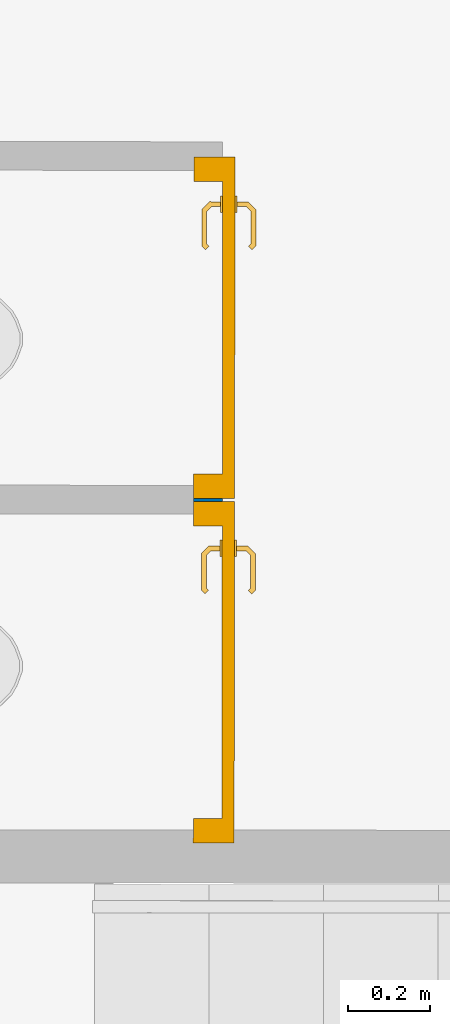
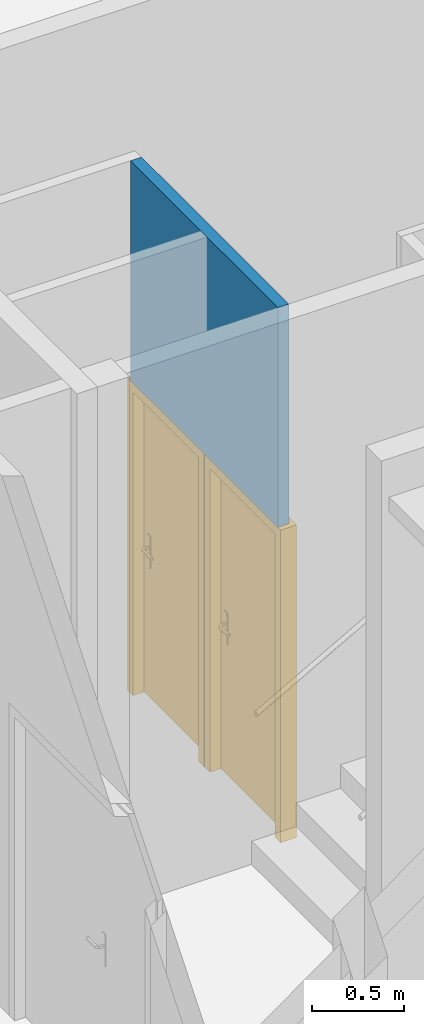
# One storey, part 52 of 101: 2 doors, 1 wall, 2 openings.
"""IFC2X3 building model written with IfcOpenShell, lengths in metres."""

from ifc_helpers import new_model, entity, si_unit, converted_unit, derived_unit, direction, frame, frame_2d, origin, place, context, subcontext, project, spatial, rectangle, extrude, faceted_brep, source, transform, mapped, material, material_list, layer, layer_set, layer_usage, type_object, type_shapes, element, fill, save


model = new_model("IFC2X3")

# Units and contexts
model_context = context("Model", 3, precision=1e-05, world=origin(), true_north=direction((6.123233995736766e-17, 1.0)))
body_context = subcontext(model_context, "Body", "Model", "MODEL_VIEW")
ifc_project = project(units=[si_unit("LENGTHUNIT", "METRE"), si_unit("AREAUNIT", "SQUARE_METRE"), converted_unit("PLANEANGLEUNIT", "DEGREE", entity("IfcPlaneAngleMeasure", 0.017453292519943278), si_unit("PLANEANGLEUNIT", "RADIAN"), dimensions=[0, 0, 0, 0, 0, 0, 0]), derived_unit("THERMALTRANSMITTANCEUNIT", [(si_unit("MASSUNIT", "GRAM", prefix="KILO"), 1), (si_unit("THERMODYNAMICTEMPERATUREUNIT", "KELVIN"), -1), (si_unit("TIMEUNIT", "SECOND"), -3)])], contexts=[model_context])

# Site, building, storey
site_placement = place(None, frame((1253.6752467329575, 2072.143113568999, 91.49999999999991), z_axis=(0.0, 0.0, 1.0), x_axis=(0.7237211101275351, 0.6900925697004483, 0.0)))
site = spatial("IfcSite", under=ifc_project, at=site_placement, Name="Surface", CompositionType="ELEMENT")
building_placement = place(site_placement, origin())
building = spatial("IfcBuilding", under=site, at=building_placement, CompositionType="ELEMENT")
storey_placement = place(building_placement, origin())
storey = spatial("IfcBuildingStorey", under=building, at=storey_placement, Name="0- Rdc", CompositionType="ELEMENT", Elevation=-5.764692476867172e-13)

# Wall, openings, doors
ifc_material_1 = material(Name="OMD_Béton blanc")
ifc_layer = layer(ifc_material_1, 0.07)
ifc_layer_set = layer_set([ifc_layer], Name="Mur de base:MUR 7")
ifc_layer_usage = layer_usage(ifc_layer_set, "AXIS2", "NEGATIVE", 0.035)
wall_type = type_object("IfcWallType", Name="Mur de base:MUR 7", PredefinedType="STANDARD", material=ifc_layer_set)
wall_placement = place(storey_placement, frame((160.17173099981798, 7.616563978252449, 0.0), z_axis=(0.0, 0.0, 1.0), x_axis=(-0.6909838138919, -0.7228702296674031, 0.0)))
wall = element("IfcWallStandardCase", 1, at=wall_placement, inside=storey, type_object=wall_type, material=ifc_layer_usage, Name="Mur de base:MUR 7", ObjectType="Mur de base:MUR 7", context=body_context, shape_type="SweptSolid", body=[
    extrude(rectangle(XDim=1.6125000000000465, YDim=0.06999999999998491, at=frame_2d((0.8062500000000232, -2.2551405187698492e-15), x_axis=(-1.0, 0.0))), origin(), (0.0, 0.0, 1.0), 3.5499999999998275),
])
opening_1_placement = place(wall_placement, frame((-0.03249999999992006, -0.035000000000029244, 0.0)))
opening_1 = element("IfcOpeningElement", 2, at=opening_1_placement, cuts=wall, Name="OMD_Porte 1V tunnel:70X204:1", ObjectType="Opening", context=body_context, shape_type="SweptSolid", body=[
    extrude(rectangle(XDim=2.0850000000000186, YDim=0.8349999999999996, at=frame_2d((1.0425000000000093, 0.4174999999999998), x_axis=(1.0, 0.0))), frame((0.0, 0.0, 0.0), z_axis=(0.0, 1.0, 0.0), x_axis=(0.0, 0.0, 1.0)), (0.0, 0.0, 1.0), 0.07),
])
opening_2_placement = place(wall_placement, frame((0.8087500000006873, -0.03500000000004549, 0.0)))
opening_2 = element("IfcOpeningElement", 3, at=opening_2_placement, cuts=wall, Name="OMD_Porte 1V tunnel:70X204:1", ObjectType="Opening", context=body_context, shape_type="SweptSolid", body=[
    extrude(rectangle(XDim=2.0850000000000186, YDim=0.8349999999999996, at=frame_2d((1.0425000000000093, 0.4174999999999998), x_axis=(1.0, 0.0))), frame((0.0, 0.0, 0.0), z_axis=(0.0, 1.0, 0.0), x_axis=(0.0, 0.0, 1.0)), (0.0, 0.0, 1.0), 0.07),
])
ifc_material_2 = material(Name="Porte - Poignée")
ifc_material_3 = material(Name="OMD_Peinture mur")
ifc_material_4 = material(Name="OMD_BLEU T1 23 25-SIKKKENS")
ifc_material_list = material_list([ifc_material_2, ifc_material_3, ifc_material_4])
door_style = type_object("IfcDoorStyle", Name="OMD_Porte 1V tunnel:70X204", ConstructionType="NOTDEFINED", OperationType="NOTDEFINED", ParameterTakesPrecedence=False, Sizeable=False, material=ifc_material_list)
shared_shape = source(origin(), body_context, "Body", "Brep", [
    faceted_brep([(0.7220252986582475, 0.0050000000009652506, 1.0077804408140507), (0.7179747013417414, 0.0050000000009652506, 1.007780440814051), (0.713999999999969, 0.0050000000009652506, 1.00699999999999), (0.7139999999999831, 0.0050000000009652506, 0.9930000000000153), (0.7179747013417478, 0.0050000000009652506, 0.9922195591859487), (0.722025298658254, 0.0050000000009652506, 0.9922195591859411), (0.7260000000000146, 0.0050000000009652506, 0.9929999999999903), (0.7260000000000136, 0.0050000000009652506, 1.006999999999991), (0.713999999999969, 0.027485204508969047, 1.00699999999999), (0.713999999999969, 0.0274852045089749, 0.9930000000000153), (0.717974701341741, 0.02913157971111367, 1.007780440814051), (0.7220252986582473, 0.03080939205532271, 1.0077804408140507), (0.7058389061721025, 0.046995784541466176, 1.0077804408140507), (0.7041610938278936, 0.04294518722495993, 1.007780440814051), (0.620793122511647, 0.0429451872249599, 1.0077804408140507), (0.6191153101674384, 0.04699578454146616, 1.0077804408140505), (0.6114510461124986, 0.039331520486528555, 1.0077804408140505), (0.6143152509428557, 0.03646731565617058, 1.0077804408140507), (0.7260000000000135, 0.03245576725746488, 1.006999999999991), (0.7260000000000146, 0.03245576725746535, 0.9929999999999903), (0.722025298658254, 0.03080939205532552, 0.9922195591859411), (0.7179747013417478, 0.029131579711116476, 0.9922195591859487), (0.7041610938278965, 0.04294518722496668, 0.9922195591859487), (0.7058389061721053, 0.046995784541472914, 0.9922195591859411), (0.6191153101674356, 0.0469957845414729, 0.9922195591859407), (0.6207931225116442, 0.04294518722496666, 0.9922195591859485), (0.6143152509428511, 0.0364673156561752, 0.9922195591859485), (0.6114510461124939, 0.03933152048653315, 0.9922195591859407), (0.7025147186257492, 0.03897048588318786, 1.00699999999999), (0.7025147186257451, 0.038970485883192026, 0.9930000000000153), (0.7074852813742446, 0.05097048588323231, 1.006999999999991), (0.7074852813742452, 0.050970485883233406, 0.9929999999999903), (0.6624771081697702, 0.03897048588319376, 1.0069999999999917), (0.6224394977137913, 0.038970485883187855, 1.0069999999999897), (0.6224394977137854, 0.03897048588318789, 0.9930000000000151), (0.6624771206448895, 0.03897048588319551, 0.9930000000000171), (0.6624771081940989, 0.045124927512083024, 1.0078781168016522), (0.6573994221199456, 0.05097048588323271, 1.0069999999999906), (0.6174689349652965, 0.05097048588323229, 1.0069999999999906), (0.6675547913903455, 0.0509704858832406, 0.9929999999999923), (0.6174689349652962, 0.05097048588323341, 0.99299999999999), (0.6624771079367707, 0.045124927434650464, 0.9921218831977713), (0.6086405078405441, 0.04214205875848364, 1.0069999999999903), (0.6086405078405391, 0.04214205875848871, 0.9929999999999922), (0.6171257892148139, 0.033656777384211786, 0.9930000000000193), (0.6171257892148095, 0.033656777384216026, 1.0069999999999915)], [[[0, 1, 2, 3, 4, 5, 6, 7]], [[8, 9, 3, 2]], [[1, 10, 8, 2]], [[1, 0, 11, 12, 13, 10]], [[14, 15, 16, 17]], [[7, 18, 11, 0]], [[18, 7, 6, 19]], [[6, 5, 20, 19]], [[5, 4, 21, 22, 23, 20]], [[24, 25, 26, 27]], [[4, 3, 9, 21]], [[28, 29, 9, 8]], [[8, 10, 13, 28]], [[18, 30, 12, 11]], [[31, 30, 18, 19]], [[19, 20, 23, 31]], [[21, 9, 29, 22]], [[29, 28, 32, 33, 34, 35]], [[36, 32, 13]], [[37, 38, 15]], [[37, 12, 30]], [[36, 12, 37]], [[14, 32, 36]], [[36, 15, 14]], [[28, 13, 32]], [[32, 14, 33]], [[12, 36, 13]], [[15, 36, 37]], [[30, 31, 39, 40, 38, 37]], [[23, 41, 39]], [[24, 39, 41]], [[39, 31, 23]], [[39, 24, 40]], [[22, 35, 41]], [[41, 23, 22]], [[41, 35, 25]], [[35, 22, 29]], [[34, 25, 35]], [[24, 41, 25]], [[17, 16, 42, 43, 27, 26, 44, 45]], [[45, 44, 34, 33]], [[33, 14, 17, 45]], [[15, 38, 42, 16]], [[43, 42, 38, 40]], [[24, 27, 43, 40]], [[34, 44, 26, 25]]]),
    faceted_brep([(0.7179747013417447, -0.034999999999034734, 1.007780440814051), (0.722025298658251, -0.034999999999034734, 1.0077804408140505), (0.7260000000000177, -0.034999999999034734, 1.0069999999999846), (0.7260000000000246, -0.034999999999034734, 0.9929999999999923), (0.7220252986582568, -0.034999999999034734, 0.992219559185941), (0.7179747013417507, -0.034999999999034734, 0.9922195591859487), (0.7139999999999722, -0.034999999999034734, 0.9930000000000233), (0.7139999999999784, -0.034999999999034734, 1.006999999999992), (0.7220252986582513, -0.061004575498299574, 1.0077804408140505), (0.7260000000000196, -0.06265095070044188, 1.0069999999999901), (0.717974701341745, -0.059326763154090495, 1.007780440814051), (0.7042986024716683, -0.07300286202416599, 1.007780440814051), (0.7059764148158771, -0.0770534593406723, 1.0077804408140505), (0.6191424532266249, -0.0770534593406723, 1.0077804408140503), (0.6208202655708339, -0.07300286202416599, 1.0077804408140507), (0.6143423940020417, -0.06652499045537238, 1.0077804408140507), (0.611478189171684, -0.06938919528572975, 1.0077804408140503), (0.7139999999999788, -0.057680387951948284, 1.006999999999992), (0.7139999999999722, -0.05768038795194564, 0.9930000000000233), (0.7179747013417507, -0.059326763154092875, 0.9922195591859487), (0.7220252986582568, -0.061004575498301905, 0.992219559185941), (0.7059764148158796, -0.07705345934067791, 0.992219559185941), (0.7042986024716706, -0.07300286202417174, 0.9922195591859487), (0.6208202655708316, -0.07300286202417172, 0.9922195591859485), (0.6191424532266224, -0.07705345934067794, 0.9922195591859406), (0.6114781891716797, -0.0693891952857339, 0.9922195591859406), (0.6143423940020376, -0.0665249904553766, 0.9922195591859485), (0.7260000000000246, -0.06265095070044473, 0.9929999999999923), (0.7076227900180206, -0.08102816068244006, 1.0069999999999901), (0.7026522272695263, -0.06902816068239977, 1.006999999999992), (0.7026522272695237, -0.06902816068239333, 0.9930000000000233), (0.7076227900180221, -0.08102816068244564, 0.9929999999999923), (0.6625594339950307, -0.07518280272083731, 1.0078781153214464), (0.6676923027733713, -0.0810281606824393, 1.0069999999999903), (0.6174960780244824, -0.08102816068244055, 1.00699999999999), (0.66255943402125, -0.06902816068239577, 1.0069999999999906), (0.6224666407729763, -0.06902816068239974, 1.0069999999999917), (0.6625594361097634, -0.06902816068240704, 0.9930000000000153), (0.622466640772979, -0.06902816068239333, 0.9930000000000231), (0.6625594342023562, -0.0751828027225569, 0.9921218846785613), (0.657426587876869, -0.08102816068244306, 0.9929999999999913), (0.6174960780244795, -0.08102816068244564, 0.9929999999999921), (0.6171529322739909, -0.06371445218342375, 0.9930000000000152), (0.6086676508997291, -0.07219973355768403, 0.9929999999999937), (0.6086676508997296, -0.07219973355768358, 1.0069999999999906), (0.6171529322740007, -0.06371445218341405, 1.0069999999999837)], [[[0, 1, 2, 3, 4, 5, 6, 7]], [[2, 1, 8, 9]], [[1, 0, 10, 11, 12, 8]], [[13, 14, 15, 16]], [[0, 7, 17, 10]], [[18, 17, 7, 6]], [[5, 19, 18, 6]], [[5, 4, 20, 21, 22, 19]], [[23, 24, 25, 26]], [[3, 27, 20, 4]], [[9, 27, 3, 2]], [[9, 8, 12, 28]], [[10, 17, 29, 11]], [[30, 29, 17, 18]], [[18, 19, 22, 30]], [[20, 27, 31, 21]], [[28, 31, 27, 9]], [[12, 32, 33]], [[13, 33, 32]], [[33, 28, 12]], [[33, 13, 34]], [[11, 35, 32]], [[32, 12, 11]], [[32, 35, 14]], [[35, 11, 29]], [[36, 14, 35]], [[13, 32, 14]], [[29, 30, 37, 38, 36, 35]], [[39, 37, 22]], [[40, 41, 24]], [[40, 21, 31]], [[39, 21, 40]], [[23, 37, 39]], [[39, 24, 23]], [[30, 22, 37]], [[37, 23, 38]], [[21, 39, 22]], [[24, 39, 40]], [[31, 28, 33, 34, 41, 40]], [[42, 26, 25, 43, 44, 16, 15, 45]], [[13, 16, 44, 34]], [[36, 45, 15, 14]], [[42, 45, 36, 38]], [[38, 23, 26, 42]], [[24, 41, 43, 25]], [[44, 43, 41, 34]]]),
    faceted_brep([(0.7199999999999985, 0.0, 0.8646410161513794), (0.7303527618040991, 0.0, 0.866003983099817), (0.739999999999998, 0.0, 0.8700000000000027), (0.739999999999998, 0.0, 1.0800000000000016), (0.730352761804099, 0.0, 1.0839960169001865), (0.7199999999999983, 0.0, 1.0853589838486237), (0.7096472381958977, 0.0, 1.0839960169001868), (0.6999999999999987, 0.0, 1.0800000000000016), (0.6999999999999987, 0.0, 0.8700000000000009), (0.7096472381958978, 0.0, 0.8660039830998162), (0.7199999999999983, 0.005000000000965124, 1.0853589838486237), (0.730352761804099, 0.005000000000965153, 1.0839960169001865), (0.739999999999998, 0.005000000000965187, 1.0800000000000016), (0.7399999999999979, 0.005000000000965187, 0.8700000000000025), (0.730352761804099, 0.005000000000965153, 0.866003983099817), (0.7199999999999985, 0.005000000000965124, 0.8646410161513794), (0.7096472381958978, 0.005000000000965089, 0.8660039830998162), (0.6999999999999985, 0.005000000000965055, 0.8700000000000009), (0.6999999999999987, 0.005000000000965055, 1.0800000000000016), (0.7096472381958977, 0.005000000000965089, 1.0839960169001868)], [[[0, 1, 2, 3, 4, 5, 6, 7, 8, 9]], [[10, 11, 12, 13, 14, 15, 16, 17, 18, 19]], [[6, 19, 18, 7]], [[5, 10, 19, 6]], [[4, 11, 10, 5]], [[4, 3, 12, 11]], [[12, 3, 2, 13]], [[1, 14, 13, 2]], [[0, 15, 14, 1]], [[9, 16, 15, 0]], [[9, 8, 17, 16]], [[17, 8, 7, 18]]]),
    faceted_brep([(0.7199999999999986, -0.03499999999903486, 0.8646410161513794), (0.7303527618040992, -0.034999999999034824, 0.8660039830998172), (0.7399999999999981, -0.034999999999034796, 0.8700000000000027), (0.739999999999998, -0.034999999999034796, 1.0800000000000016), (0.7303527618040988, -0.034999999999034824, 1.0839960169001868), (0.7199999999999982, -0.03499999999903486, 1.0853589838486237), (0.7096472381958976, -0.03499999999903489, 1.0839960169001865), (0.6999999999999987, -0.03499999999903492, 1.0800000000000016), (0.6999999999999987, -0.03499999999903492, 0.8700000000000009), (0.7096472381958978, -0.03499999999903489, 0.8660039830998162), (0.739999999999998, -0.029999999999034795, 1.0800000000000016), (0.7399999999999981, -0.029999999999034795, 0.8700000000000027), (0.7303527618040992, -0.02999999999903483, 0.8660039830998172), (0.7199999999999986, -0.029999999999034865, 0.8646410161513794), (0.7096472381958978, -0.0299999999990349, 0.8660039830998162), (0.6999999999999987, -0.029999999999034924, 0.8700000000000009), (0.6999999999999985, -0.029999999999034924, 1.0800000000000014), (0.7096472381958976, -0.0299999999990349, 1.0839960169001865), (0.7199999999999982, -0.029999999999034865, 1.0853589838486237), (0.7303527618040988, -0.02999999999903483, 1.0839960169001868)], [[[0, 1, 2, 3, 4, 5, 6, 7, 8, 9]], [[10, 11, 12, 13, 14, 15, 16, 17, 18, 19]], [[1, 12, 11, 2]], [[0, 13, 12, 1]], [[9, 14, 13, 0]], [[9, 8, 15, 14]], [[15, 8, 7, 16]], [[6, 17, 16, 7]], [[5, 18, 17, 6]], [[4, 19, 18, 5]], [[4, 3, 10, 19]], [[10, 3, 2, 11]]]),
    faceted_brep([(0.7899999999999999, 0.0, 0.0), (0.7899999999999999, -0.029999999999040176, 0.0), (0.0450000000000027, -0.029999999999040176, 0.0), (0.0450000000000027, 0.0, 0.0), (0.7899999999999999, 0.0, 2.04), (0.7899999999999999, -0.029999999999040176, 2.04), (0.0450000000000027, -0.029999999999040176, 2.04), (0.0450000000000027, 0.0, 2.04)], [[[0, 1, 2, 3]], [[4, 5, 1, 0]], [[5, 6, 2, 1]], [[6, 7, 3, 2]], [[7, 4, 0, 3]], [[4, 7, 6, 5]]]),
    faceted_brep([(0.8350000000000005, -0.02999999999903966, 0.0), (0.7900000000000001, -0.029999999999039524, 0.0), (0.7900000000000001, 0.0, 0.0), (0.7750000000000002, 0.0, 0.0), (0.7750000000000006, 0.07000000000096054, 0.0), (0.8350000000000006, 0.07000000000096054, 0.0), (0.8350000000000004, -0.02999999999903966, 2.0850000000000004), (0.0, -0.029999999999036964, 2.0850000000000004), (0.0, -0.029999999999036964, 0.0), (0.04500000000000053, -0.029999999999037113, 0.0), (0.04500000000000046, -0.029999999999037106, 2.04), (0.7900000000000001, -0.029999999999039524, 2.0400000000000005), (0.7900000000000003, 0.0, 2.0400000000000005), (0.04500000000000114, 0.0, 2.0399999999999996), (0.04500000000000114, 0.0, 0.0), (0.060000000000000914, 0.0, 0.0), (0.06000000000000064, 0.0, 2.025), (0.7750000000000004, 0.0, 2.0250000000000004), (0.7750000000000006, 0.07000000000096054, 2.0250000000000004), (0.06000000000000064, 0.07000000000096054, 2.0250000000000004), (0.06000000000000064, 0.07000000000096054, 0.0), (0.0, 0.07000000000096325, 0.0), (0.0, 0.07000000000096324, 2.0850000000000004), (0.8350000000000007, 0.07000000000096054, 2.0850000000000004)], [[[0, 1, 2, 3, 4, 5]], [[1, 0, 6, 7, 8, 9, 10, 11]], [[2, 1, 11, 12]], [[3, 2, 12, 13, 14, 15, 16, 17]], [[4, 3, 17, 18]], [[5, 4, 18, 19, 20, 21, 22, 23]], [[0, 5, 23, 6]], [[7, 22, 21, 8]], [[8, 21, 20, 15, 14, 9]], [[13, 10, 9, 14]], [[19, 16, 15, 20]], [[12, 11, 10, 13]], [[18, 17, 16, 19]], [[6, 23, 22, 7]]]),
])
type_shapes(door_style, [shared_shape])
door_1_placement = place(opening_1_placement, frame((0.8349999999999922, 0.0700000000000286, 0.0), z_axis=(0.0, 0.0, 1.0), x_axis=(-1.0, 0.0, 0.0)))
door_1 = element("IfcDoor", 4, at=door_1_placement, inside=storey, type_object=door_style, material=ifc_material_list, Name="OMD_Porte 1V tunnel:70X204", ObjectType="OMD_Porte 1V tunnel:70X204", OverallHeight=2.0850000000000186, OverallWidth=0.8350000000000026, context=body_context, shape_type="MappedRepresentation", body=[
    mapped(shared_shape, transform((0.0, 0.0, 0.0), scale=1.0)),
])
fill(opening_1, door_1)
door_2_placement = place(opening_2_placement, frame((0.8349999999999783, 0.07000000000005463, 0.0), z_axis=(0.0, 0.0, 1.0), x_axis=(-1.0, 0.0, 0.0)))
door_2 = element("IfcDoor", 5, at=door_2_placement, inside=storey, type_object=door_style, material=ifc_material_list, Name="OMD_Porte 1V tunnel:70X204", ObjectType="OMD_Porte 1V tunnel:70X204", OverallHeight=2.0850000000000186, OverallWidth=0.8350000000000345, context=body_context, shape_type="MappedRepresentation", body=[
    mapped(shared_shape, transform((0.0, 0.0, 0.0), scale=1.0)),
])
fill(opening_2, door_2)

save(model, "model.ifc")
